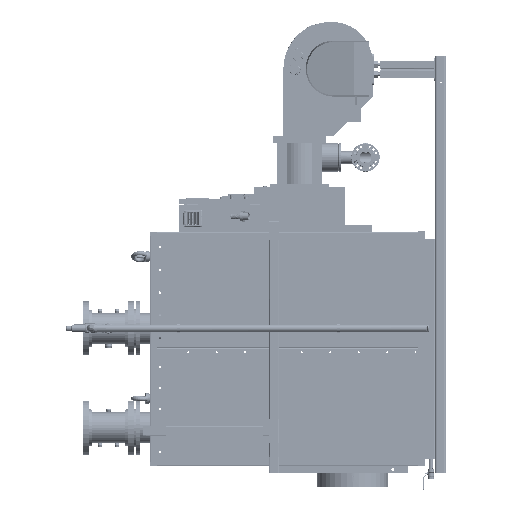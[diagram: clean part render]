
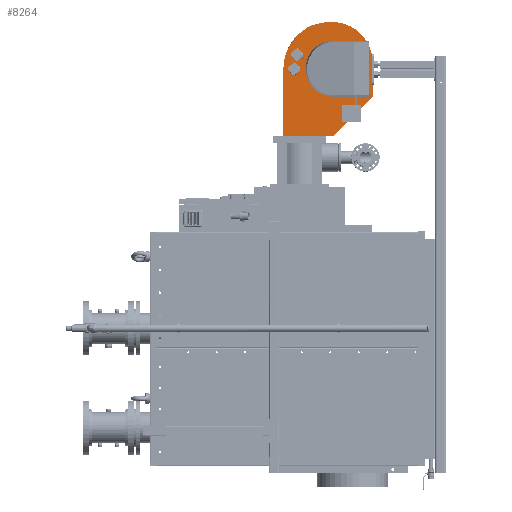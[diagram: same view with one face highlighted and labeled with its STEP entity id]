
A CAD part, left-side view. The second image highlights one B-rep face of the part: STEP entity #8264.
In plain terms, the highlighted planar face has unit normal (-1, 0, 0).
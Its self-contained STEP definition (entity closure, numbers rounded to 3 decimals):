
#8264 = ADVANCED_FACE ( 'NONE', ( #181783 ), #678607, .T. ) ;
#31544 = VERTEX_POINT ( 'NONE', #958058 ) ;
#36915 = ORIENTED_EDGE ( 'NONE', *, *, #272623, .F. ) ;
#39811 = VERTEX_POINT ( 'NONE', #778961 ) ;
#64589 = CARTESIAN_POINT ( 'NONE',  ( -102., -514.938, 876.6 ) ) ;
#73580 = AXIS2_PLACEMENT_3D ( 'NONE', #161805, #1253760, #652211 ) ;
#116221 = EDGE_CURVE ( 'NONE', #1170504, #867321, #240142, .T. ) ;
#122969 = DIRECTION ( 'NONE',  ( 0., 0., 1. ) ) ;
#133183 = EDGE_CURVE ( 'NONE', #975815, #741139, #149521, .T. ) ;
#149521 = CIRCLE ( 'NONE', #1046589, 330. ) ;
#161805 = CARTESIAN_POINT ( 'NONE',  ( -102., -231.155, 885.142 ) ) ;
#179234 = CARTESIAN_POINT ( 'NONE',  ( -102., 113.75, 511. ) ) ;
#181783 = FACE_OUTER_BOUND ( 'NONE', #826809, .T. ) ;
#181827 = CARTESIAN_POINT ( 'NONE',  ( -102., -514.938, 641. ) ) ;
#184025 = ORIENTED_EDGE ( 'NONE', *, *, #292286, .F. ) ;
#187694 = EDGE_CURVE ( 'NONE', #861054, #694178, #1047213, .T. ) ;
#195644 = CARTESIAN_POINT ( 'NONE',  ( -102., -509.442, 936.578 ) ) ;
#240142 = B_SPLINE_CURVE_WITH_KNOTS ( 'NONE', 3,
 ( #863641, #870037, #1151547, #255831 ),
 .UNSPECIFIED., .F., .F.,
 ( 4, 4 ),
 ( 0., 0.835 ),
 .UNSPECIFIED. ) ;
#249569 = CARTESIAN_POINT ( 'NONE',  ( -102., -120.25, 369. ) ) ;
#255831 = CARTESIAN_POINT ( 'NONE',  ( -102., 117.903, 369. ) ) ;
#272623 = EDGE_CURVE ( 'NONE', #39811, #31544, #915176, .T. ) ;
#277465 = CARTESIAN_POINT ( 'NONE',  ( -102., -120.25, 369. ) ) ;
#292286 = EDGE_CURVE ( 'NONE', #374787, #975815, #386402, .T. ) ;
#322993 = EDGE_CURVE ( 'NONE', #39811, #1170504, #414482, .T. ) ;
#338571 = DIRECTION ( 'NONE',  ( 1., 0., 0. ) ) ;
#347773 = ORIENTED_EDGE ( 'NONE', *, *, #557496, .F. ) ;
#358131 = DIRECTION ( 'NONE',  ( 1., 0., 0. ) ) ;
#374787 = VERTEX_POINT ( 'NONE', #489778 ) ;
#386402 = CIRCLE ( 'NONE', #73580, 283. ) ;
#413255 = AXIS2_PLACEMENT_3D ( 'NONE', #1162196, #358131, #573487 ) ;
#414482 = LINE ( 'NONE', #1101233, #1248661 ) ;
#443034 = EDGE_CURVE ( 'NONE', #809538, #861054, #709909, .T. ) ;
#443050 = CARTESIAN_POINT ( 'NONE',  ( -102., -213.25, 841.277 ) ) ;
#468646 = EDGE_CURVE ( 'NONE', #31544, #374787, #517728, .T. ) ;
#482463 = CARTESIAN_POINT ( 'NONE',  ( -102., 117.903, 369. ) ) ;
#483391 = VECTOR ( 'NONE', #767823, 1000. ) ;
#489778 = CARTESIAN_POINT ( 'NONE',  ( -102., -272.368, 1165.125 ) ) ;
#497395 = ORIENTED_EDGE ( 'NONE', *, *, #468646, .F. ) ;
#517728 = CIRCLE ( 'NONE', #413255, 360. ) ;
#557496 = EDGE_CURVE ( 'NONE', #694178, #867321, #1068656, .T. ) ;
#565124 = DIRECTION ( 'NONE',  ( 0., 0., 1. ) ) ;
#573487 = DIRECTION ( 'NONE',  ( 0., 0., 1. ) ) ;
#580538 = DIRECTION ( 'NONE',  ( -1., 0., 0. ) ) ;
#581645 = ORIENTED_EDGE ( 'NONE', *, *, #657139, .T. ) ;
#586967 = CARTESIAN_POINT ( 'NONE',  ( -102., -240.25, 841. ) ) ;
#621989 = AXIS2_PLACEMENT_3D ( 'NONE', #443050, #338571, #122969 ) ;
#638592 = CARTESIAN_POINT ( 'NONE',  ( -102., -514.938, 511. ) ) ;
#652211 = DIRECTION ( 'NONE',  ( 0., 0., 1. ) ) ;
#657139 = EDGE_CURVE ( 'NONE', #809538, #741139, #945896, .T. ) ;
#678607 = PLANE ( 'NONE',  #965417 ) ;
#694178 = VERTEX_POINT ( 'NONE', #1150894 ) ;
#697049 = ORIENTED_EDGE ( 'NONE', *, *, #133183, .F. ) ;
#708829 = ORIENTED_EDGE ( 'NONE', *, *, #322993, .T. ) ;
#709909 = LINE ( 'NONE', #1108845, #836239 ) ;
#741139 = VERTEX_POINT ( 'NONE', #64589 ) ;
#750050 = VECTOR ( 'NONE', #1040782, 1000. ) ;
#767823 = DIRECTION ( 'NONE',  ( 0., 1., 0. ) ) ;
#778961 = CARTESIAN_POINT ( 'NONE',  ( -102., 113.75, 841.277 ) ) ;
#789615 = DIRECTION ( 'NONE',  ( 0., 0., 1. ) ) ;
#791232 = CARTESIAN_POINT ( 'NONE',  ( -102., -244.938, 369. ) ) ;
#809538 = VERTEX_POINT ( 'NONE', #181827 ) ;
#813217 = DIRECTION ( 'NONE',  ( 0., 0., -1. ) ) ;
#823954 = ORIENTED_EDGE ( 'NONE', *, *, #116221, .T. ) ;
#826809 = EDGE_LOOP ( 'NONE', ( #823954, #347773, #1217159, #969026, #581645, #697049, #184025, #497395, #36915, #708829 ) ) ;
#836239 = VECTOR ( 'NONE', #1187577, 1000. ) ;
#841289 = DIRECTION ( 'NONE',  ( 0., 0., 1. ) ) ;
#861054 = VERTEX_POINT ( 'NONE', #791232 ) ;
#863641 = CARTESIAN_POINT ( 'NONE',  ( -102., 113.75, 511. ) ) ;
#867321 = VERTEX_POINT ( 'NONE', #482463 ) ;
#870037 = CARTESIAN_POINT ( 'NONE',  ( -102., 113.75, 463.653 ) ) ;
#915176 = CIRCLE ( 'NONE', #621989, 327. ) ;
#945896 = LINE ( 'NONE', #638592, #955108 ) ;
#955108 = VECTOR ( 'NONE', #841289, 1000. ) ;
#958058 = CARTESIAN_POINT ( 'NONE',  ( -102., -146.939, 1161.483 ) ) ;
#965417 = AXIS2_PLACEMENT_3D ( 'NONE', #586967, #580538, #789615 ) ;
#969026 = ORIENTED_EDGE ( 'NONE', *, *, #443034, .F. ) ;
#975815 = VERTEX_POINT ( 'NONE', #195644 ) ;
#1040782 = DIRECTION ( 'NONE',  ( 0., 1., 0. ) ) ;
#1046589 = AXIS2_PLACEMENT_3D ( 'NONE', #1179506, #1166675, #565124 ) ;
#1047213 = LINE ( 'NONE', #249569, #750050 ) ;
#1068656 = LINE ( 'NONE', #277465, #483391 ) ;
#1101233 = CARTESIAN_POINT ( 'NONE',  ( -102., 113.75, 841. ) ) ;
#1108845 = CARTESIAN_POINT ( 'NONE',  ( -102., -244.938, 369. ) ) ;
#1150894 = CARTESIAN_POINT ( 'NONE',  ( -102., -184.997, 369. ) ) ;
#1151547 = CARTESIAN_POINT ( 'NONE',  ( -102., 115.669, 416.325 ) ) ;
#1162196 = CARTESIAN_POINT ( 'NONE',  ( -102., -219.942, 808.963 ) ) ;
#1166675 = DIRECTION ( 'NONE',  ( 1., 0., 0. ) ) ;
#1170504 = VERTEX_POINT ( 'NONE', #179234 ) ;
#1179506 = CARTESIAN_POINT ( 'NONE',  ( -102., -184.938, 876.6 ) ) ;
#1187577 = DIRECTION ( 'NONE',  ( 0., 0.704, -0.71 ) ) ;
#1217159 = ORIENTED_EDGE ( 'NONE', *, *, #187694, .F. ) ;
#1248661 = VECTOR ( 'NONE', #813217, 1000. ) ;
#1253760 = DIRECTION ( 'NONE',  ( 1., 0., 0. ) ) ;
